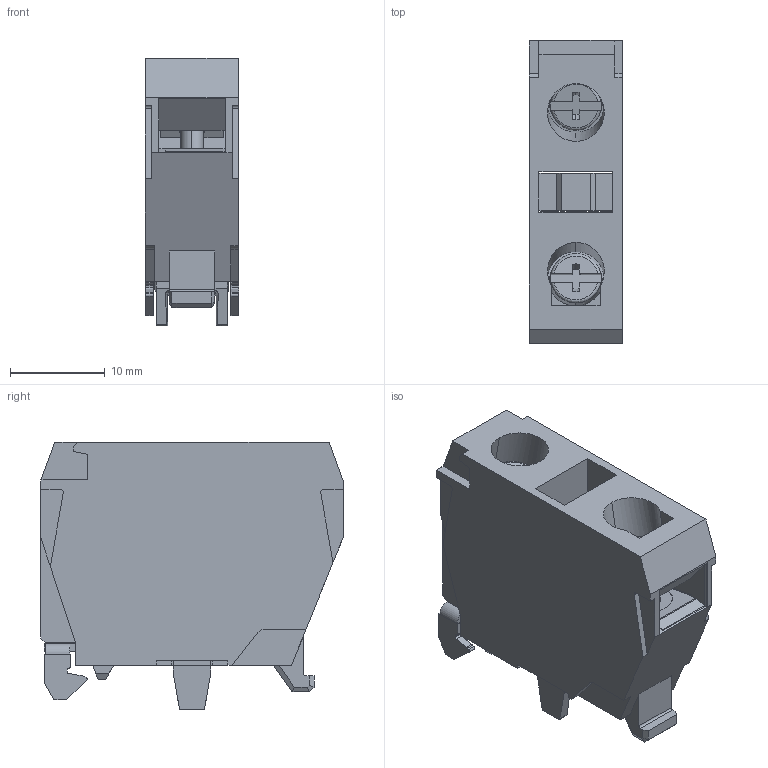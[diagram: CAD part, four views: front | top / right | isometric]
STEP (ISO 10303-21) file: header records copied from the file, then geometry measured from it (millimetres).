
FILE_DESCRIPTION (( 'STEP AP214' ), '1' );
FILE_NAME ('ZBE101.stp', '2023-11-29T14:52:21', ( '' ), ( '' ), 'SwSTEP 2.0', 'SolidWorks 2021', '' );
FILE_SCHEMA (( 'AUTOMOTIVE_DESIGN' ));
Length unit declared in the file: millimetre
Products named in the file (5): ZBE101_1_2.stp; ZBE101.stp; ZBE101; ZBE101_1_3.stp; ZBE101_1.stp
Assembly tree (4 placements, depth 3):
  ZBE101
    ZBE101.stp
      ZBE101_1_3.stp
      ZBE101_1_2.stp
      ZBE101_1.stp
Bounding box: 9.82 x 32 x 28.3 mm (x, y, z)
Volume: 5809 mm3; surface area: 5117 mm2
Topology: 3 solids, 3 shells, 341 faces, 959 edges, 635 vertices
Faces by surface type: plane 239, cylinder 78, bspline 13, cone 11
Entity records: 12359 total; most frequent: CARTESIAN_POINT 3689, ORIENTED_EDGE 1918, DIRECTION 1542, EDGE_CURVE 959, LINE 688, VECTOR 688, VERTEX_POINT 635, AXIS2_PLACEMENT_3D 427
